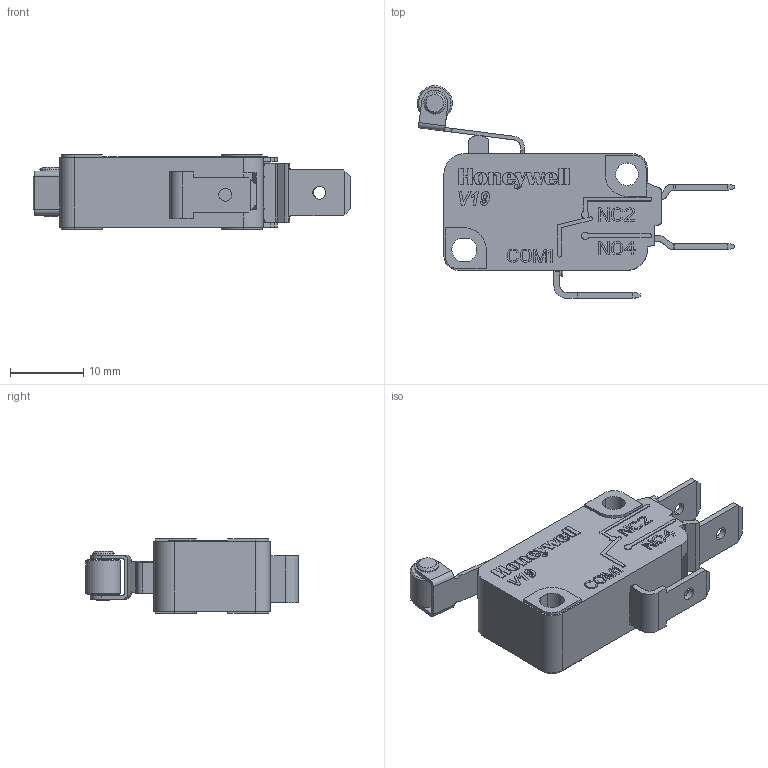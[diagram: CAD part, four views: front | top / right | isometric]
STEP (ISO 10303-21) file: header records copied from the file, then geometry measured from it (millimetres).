
FILE_DESCRIPTION((''),'2;1');
FILE_NAME('V19S05_TERMINAL_C_SW0002','2020-06-18T17:12:26',('h252115'),(''),'CREO PARAMETRIC BY PTC INC, 2017380','CREO PARAMETRIC BY PTC INC, 2017380','');
FILE_SCHEMA(('CONFIG_CONTROL_DESIGN'));
Length unit declared in the file: millimetre
Products named in the file (1): V19S05_TERMINAL_C_SW0002
Bounding box: 43.32 x 29.01 x 10.2 mm (x, y, z)
Volume: 4375.3 mm3; surface area: 2963.9 mm2
Topology: 1 solids, 1 shells, 770 faces, 2155 edges, 1431 vertices
Faces by surface type: plane 542, cylinder 111, extrusion 101, cone 10, torus 3, bspline 3
Entity records: 27108 total; most frequent: CARTESIAN_POINT 7384, ORIENTED_EDGE 4310, DIRECTION 3617, EDGE_CURVE 2155, VECTOR 1791, LINE 1690, VERTEX_POINT 1431, AXIS2_PLACEMENT_3D 913
